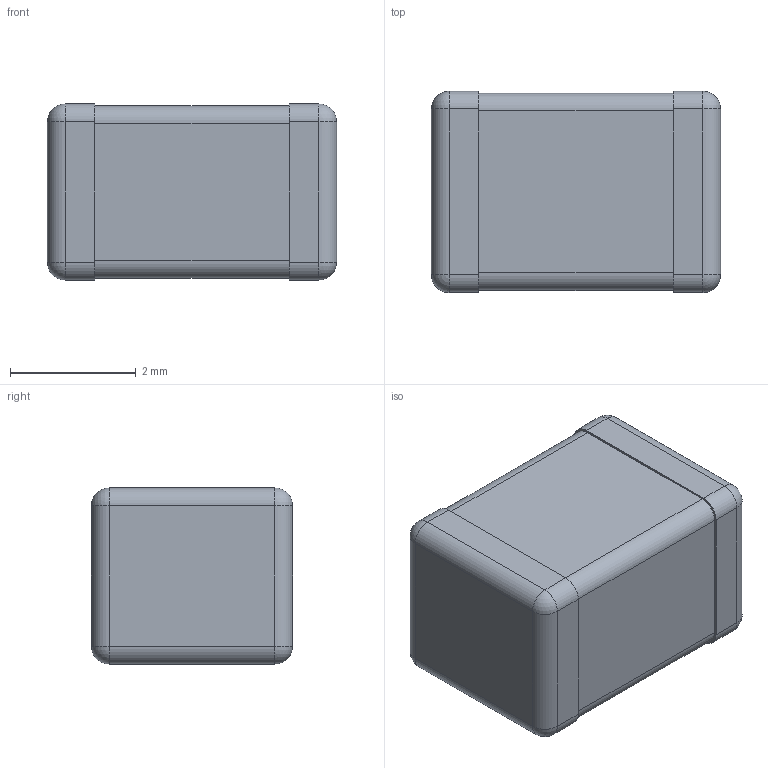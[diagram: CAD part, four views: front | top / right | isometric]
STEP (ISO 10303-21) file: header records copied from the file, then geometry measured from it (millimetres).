
FILE_DESCRIPTION(('FreeCAD Model'),'2;1');
FILE_NAME('/var/www/3D/0T/874753.1.1.stp','2018-01-09T20:52:21',( 'Author'),(''),'Open CASCADE STEP processor 6.8','FreeCAD','Unknown' );
FILE_SCHEMA(('AUTOMOTIVE_DESIGN_CC2 { 1 2 10303 214 -1 1 5 4 }'));
Length unit declared in the file: millimetre
Products named in the file (4): ASSEMBLY; Fillet1; Fillet2; body2
Assembly tree (3 placements, depth 2):
  ASSEMBLY
    Fillet1
    Fillet2
    body2
Bounding box: 4.6 x 3.2 x 2.8 mm (x, y, z)
Volume: 39.4 mm3; surface area: 102.1 mm2
Topology: 3 solids, 3 shells, 46 faces, 104 edges, 56 vertices
Faces by surface type: cylinder 20, plane 18, sphere 8
Entity records: 2540 total; most frequent: CARTESIAN_POINT 474, DIRECTION 388, LINE 200, VECTOR 200, ORIENTED_EDGE 192, PCURVE 192, DEFINITIONAL_REPRESENTATION 192, EDGE_CURVE 96
